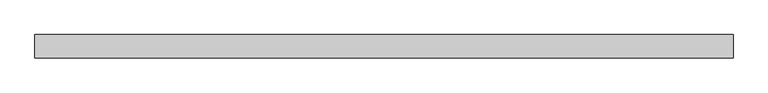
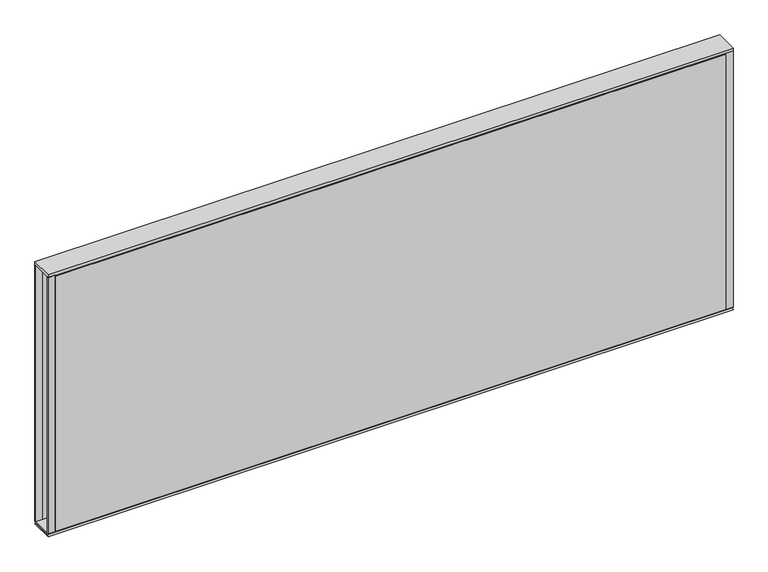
"""IFC4 building model written with IfcOpenShell, lengths in millimetres: furniture geometry, Steelcase - Kick Solutions - Panel - Stacker - Tackable Acoustical : 24H x 60W."""

from ifc_helpers import new_model, si_unit, frame, origin, place, context, project, spatial, polyline, outline, extrude, source, transform, mapped, element, save


def furniture_5e999fea(model_context):
    return source(origin(), model_context, "Body", "SweptSolid", [
        extrude(outline(polyline([(-50.7995075, 1073.2669139), (-0.000494, 1073.2669139), (-3.1752531, 1070.0921549), (-47.6247484, 1070.0921549), (-50.7995075, 1073.2669139)])), frame((0.0, 0.0, 0.0), z_axis=(1.0, 0.0, 0.0), x_axis=(0.0, 1.0, 0.0)), (0.0, 0.0, 1.0), 1524.0),
        extrude(outline(polyline([(0.0, 1073.2669139), (-3.1750015, 1073.2669139), (-3.1750015, 1676.5169018), (0.0, 1673.4357466), (0.0, 1073.2669139)])), frame((15.8749996, 0.0, 0.0), z_axis=(1.0, 0.0, 0.0), x_axis=(0.0, 1.0, 0.0)), (0.0, 0.0, 1.0), 1492.2500008),
        extrude(outline(polyline([(-50.8000015, 1073.2669139), (-50.8000015, 1673.4357466), (-47.625, 1676.5169018), (-47.625, 1073.2669139), (-50.8000015, 1073.2669139)])), frame((15.8749996, 0.0, 0.0), z_axis=(1.0, 0.0, 0.0), x_axis=(0.0, 1.0, 0.0)), (0.0, 0.0, 1.0), 1492.2500008),
        extrude(outline(polyline([(1524.0, -3.1750015), (1508.1250004, -3.1750015), (1508.1250004, 0.0), (1524.0, 0.0), (1524.0, -3.1750015)])), frame((0.0, 0.0, 1073.2669139), z_axis=(0.0, 0.0, 1.0), x_axis=(1.0, 0.0, 0.0)), (0.0, 0.0, 1.0), 603.2499879),
        extrude(outline(polyline([(15.8749996, -50.8000015), (0.0, -50.8000015), (0.0, -47.625), (15.8749996, -47.625), (15.8749996, -50.8000015)])), frame((0.0, 0.0, 1073.2669139), z_axis=(0.0, 0.0, 1.0), x_axis=(1.0, 0.0, 0.0)), (0.0, 0.0, 1.0), 603.2499879),
        extrude(outline(polyline([(1524.0, 0.0), (1524.0, -50.8000015), (0.0, -50.8000015), (0.0, 0.0), (1524.0, 0.0)])), frame((0.0, 0.0, 1676.5169018), z_axis=(0.0, 0.0, 1.0), x_axis=(1.0, 0.0, 0.0)), (0.0, 0.0, 1.0), 6.35),
        extrude(outline(polyline([(15.8749996, -3.1750015), (0.0, -3.1750015), (0.0, 0.0), (15.8749996, 0.0), (15.8749996, -3.1750015)])), frame((0.0, 0.0, 1073.2669139), z_axis=(0.0, 0.0, 1.0), x_axis=(1.0, 0.0, 0.0)), (0.0, 0.0, 1.0), 603.2499879),
        extrude(outline(polyline([(1524.0, -50.8000015), (1508.1250004, -50.8000015), (1508.1250004, -47.625), (1524.0, -47.625), (1524.0, -50.8000015)])), frame((0.0, 0.0, 1073.2669139), z_axis=(0.0, 0.0, 1.0), x_axis=(1.0, 0.0, 0.0)), (0.0, 0.0, 1.0), 603.2499879),
        extrude(outline(polyline([(-50.8000015, 1066.9169018), (-47.6247484, 1070.0921549), (-3.1752531, 1070.0921549), (0.0, 1066.9169018), (-50.8000015, 1066.9169018)])), frame((0.0, 0.0, 0.0), z_axis=(1.0, 0.0, 0.0), x_axis=(0.0, 1.0, 0.0)), (0.0, 0.0, 1.0), 1524.0),
    ])


if __name__ == "__main__":
    model = new_model("IFC4")
    model_context = context("Model", 3, world=origin())
    ifc_project = project(units=[si_unit("LENGTHUNIT", "METRE", prefix="MILLI")], contexts=[model_context])
    site = spatial("IfcSite", under=ifc_project)
    building = spatial("IfcBuilding", under=site)
    placement = place(None, origin())
    furniture_shape = furniture_5e999fea(model_context)
    element("IfcFurniture", 1, ObjectType="Steelcase - Kick Solutions - Panel - Stacker - Tackable Acoustical : 24H x 60W", at=placement, inside=building, context=model_context, shape_type="MappedRepresentation", body=[
        mapped(furniture_shape, transform((0.0, 0.0, 0.0), x_axis=(1.0, 0.0, 0.0), y_axis=(0.0, 1.0, 0.0), z_axis=(0.0, 0.0, 1.0))),
    ])
    save(model, "model.ifc")
